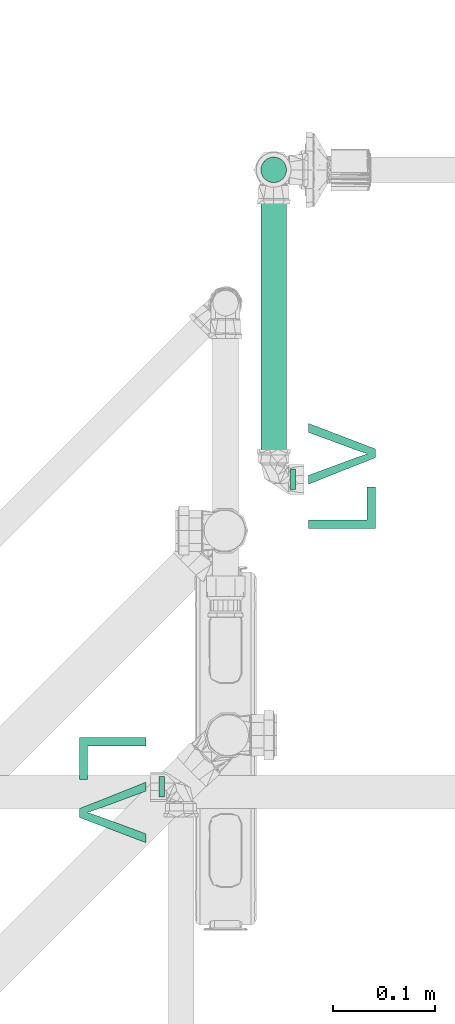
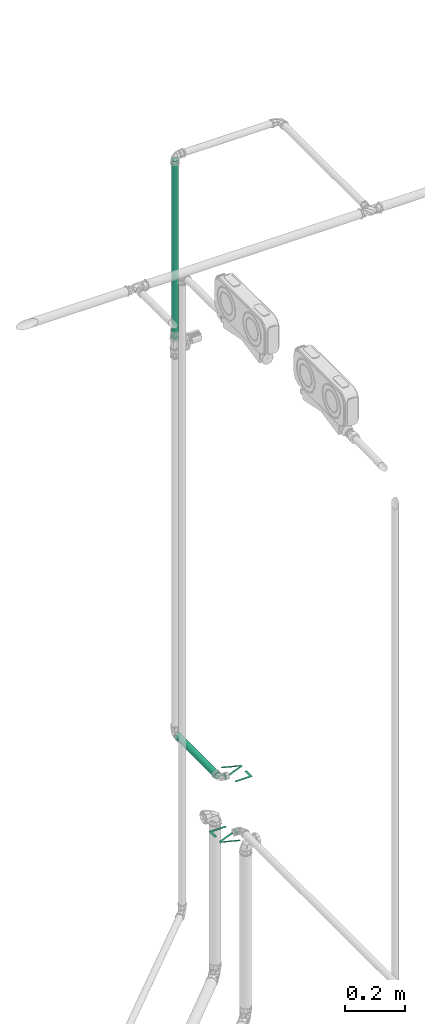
# One storey, part 104 of 589: 2 flow segments, 2 flow terminals.
"""IFC2X3 building model written with IfcOpenShell, lengths in millimetres."""

from ifc_helpers import new_model, entity, si_unit, converted_unit, derived_unit, direction, frame, frame_2d, origin, origin_2d_with_axis, place, context, subcontext, project, spatial, circle, extrude, face_set, surface_model, source, transform, mapped, material, type_object, type_shapes, element, save


model = new_model("IFC2X3")

# Units and contexts
model_context = context("Model", 3, precision=0.01, world=origin(), true_north=direction((6.123031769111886e-17, 1.0)))
body_context = subcontext(model_context, "Body", "Model", "MODEL_VIEW")
ifc_project = project(units=[si_unit("LENGTHUNIT", "METRE", prefix="MILLI"), si_unit("AREAUNIT", "SQUARE_METRE"), si_unit("VOLUMEUNIT", "CUBIC_METRE"), converted_unit("PLANEANGLEUNIT", "DEGREE", entity("IfcRatioMeasure", 0.017453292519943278), si_unit("PLANEANGLEUNIT", "RADIAN"), dimensions=[0, 0, 0, 0, 0, 0, 0]), si_unit("MASSUNIT", "GRAM", prefix="KILO"), derived_unit("MASSDENSITYUNIT", [(si_unit("MASSUNIT", "GRAM", prefix="KILO"), 1), (si_unit("LENGTHUNIT", "METRE"), -3)]), derived_unit("IONCONCENTRATIONUNIT", [(si_unit("MASSUNIT", "GRAM", prefix="KILO"), 1), (si_unit("LENGTHUNIT", "METRE"), -3)]), derived_unit("MOMENTOFINERTIAUNIT", [(si_unit("LENGTHUNIT", "METRE"), 4)]), si_unit("TIMEUNIT", "SECOND"), si_unit("FREQUENCYUNIT", "HERTZ"), si_unit("THERMODYNAMICTEMPERATUREUNIT", "DEGREE_CELSIUS"), derived_unit("THERMALTRANSMITTANCEUNIT", [(si_unit("MASSUNIT", "GRAM", prefix="KILO"), 1), (si_unit("THERMODYNAMICTEMPERATUREUNIT", "KELVIN"), -1), (si_unit("TIMEUNIT", "SECOND"), -3)]), derived_unit("THERMALCONDUCTANCEUNIT", [(si_unit("MASSUNIT", "GRAM", prefix="KILO"), 1), (si_unit("THERMODYNAMICTEMPERATUREUNIT", "KELVIN"), -1), (si_unit("TIMEUNIT", "SECOND"), -3), (si_unit("LENGTHUNIT", "METRE"), 1)]), derived_unit("VOLUMETRICFLOWRATEUNIT", [(si_unit("LENGTHUNIT", "METRE"), 3), (si_unit("TIMEUNIT", "SECOND"), -1)]), derived_unit("MASSFLOWRATEUNIT", [(si_unit("MASSUNIT", "GRAM", prefix="KILO"), 1), (si_unit("TIMEUNIT", "SECOND"), -1)]), derived_unit("ROTATIONALFREQUENCYUNIT", [(si_unit("TIMEUNIT", "SECOND"), -1)]), si_unit("ELECTRICCURRENTUNIT", "AMPERE"), si_unit("ELECTRICVOLTAGEUNIT", "VOLT"), si_unit("POWERUNIT", "WATT"), si_unit("FORCEUNIT", "NEWTON", prefix="KILO"), si_unit("ILLUMINANCEUNIT", "LUX"), si_unit("LUMINOUSFLUXUNIT", "LUMEN"), si_unit("LUMINOUSINTENSITYUNIT", "CANDELA"), derived_unit("USERDEFINED", [(si_unit("MASSUNIT", "GRAM", prefix="KILO"), -1), (si_unit("LENGTHUNIT", "METRE"), -2), (si_unit("TIMEUNIT", "SECOND"), 3), (si_unit("LUMINOUSFLUXUNIT", "LUMEN"), 1)]), derived_unit("USERDEFINED", [(si_unit("MASSUNIT", "GRAM", prefix="KILO"), 1), (si_unit("TIMEUNIT", "SECOND"), -3), (si_unit("LENGTHUNIT", "METRE"), 3), (si_unit("ELECTRICCURRENTUNIT", "AMPERE"), -2)]), derived_unit("SOUNDPOWERUNIT", [(si_unit("MASSUNIT", "GRAM", prefix="KILO"), 1), (si_unit("TIMEUNIT", "SECOND"), -3), (si_unit("LENGTHUNIT", "METRE"), 2)]), derived_unit("SOUNDPRESSUREUNIT", [(si_unit("MASSUNIT", "GRAM", prefix="KILO"), 1), (si_unit("LENGTHUNIT", "METRE"), -1), (si_unit("TIMEUNIT", "SECOND"), -2)]), derived_unit("LINEARVELOCITYUNIT", [(si_unit("LENGTHUNIT", "METRE"), 1), (si_unit("TIMEUNIT", "SECOND"), -1)]), si_unit("PRESSUREUNIT", "PASCAL"), derived_unit("USERDEFINED", [(si_unit("MASSUNIT", "GRAM", prefix="KILO"), 1), (si_unit("LENGTHUNIT", "METRE"), -2), (si_unit("TIMEUNIT", "SECOND"), -2)]), derived_unit("LINEARFORCEUNIT", [(si_unit("MASSUNIT", "GRAM", prefix="KILO"), 1), (si_unit("TIMEUNIT", "SECOND"), -2)]), derived_unit("PLANARFORCEUNIT", [(si_unit("MASSUNIT", "GRAM", prefix="KILO"), 1), (si_unit("LENGTHUNIT", "METRE"), -1), (si_unit("TIMEUNIT", "SECOND"), -2)]), derived_unit("SPECIFICHEATCAPACITYUNIT", [(si_unit("THERMODYNAMICTEMPERATUREUNIT", "KELVIN"), -1), (si_unit("LENGTHUNIT", "METRE"), 2), (si_unit("TIMEUNIT", "SECOND"), -2)]), derived_unit("HEATINGVALUEUNIT", [(si_unit("LENGTHUNIT", "METRE"), 2), (si_unit("TIMEUNIT", "SECOND"), -2)]), derived_unit("VAPORPERMEABILITYUNIT", [(si_unit("LENGTHUNIT", "METRE"), -1), (si_unit("TIMEUNIT", "SECOND"), 1)]), derived_unit("DYNAMICVISCOSITYUNIT", [(si_unit("MASSUNIT", "GRAM", prefix="KILO"), 1), (si_unit("TIMEUNIT", "SECOND"), -1), (si_unit("LENGTHUNIT", "METRE"), -1)]), derived_unit("THERMALEXPANSIONCOEFFICIENTUNIT", [(si_unit("THERMODYNAMICTEMPERATUREUNIT", "KELVIN"), -1)]), derived_unit("MODULUSOFELASTICITYUNIT", [(si_unit("MASSUNIT", "GRAM", prefix="KILO"), 1), (si_unit("LENGTHUNIT", "METRE"), -1), (si_unit("TIMEUNIT", "SECOND"), -2)]), derived_unit("ISOTHERMALMOISTURECAPACITYUNIT", [(si_unit("LENGTHUNIT", "METRE"), 3), (si_unit("MASSUNIT", "GRAM", prefix="KILO"), -1)]), derived_unit("MOISTUREDIFFUSIVITYUNIT", [(si_unit("TIMEUNIT", "SECOND"), -1), (si_unit("LENGTHUNIT", "METRE"), 2)])], contexts=[model_context])

# Site, building, storey
site_placement = place(None, origin())
site = spatial("IfcSite", under=ifc_project, at=site_placement, Name="Default", CompositionType="ELEMENT")
building_placement = place(site_placement, origin())
building = spatial("IfcBuilding", under=site, at=building_placement, CompositionType="ELEMENT")
storey_placement = place(building_placement, frame((0.0, 0.0, 100.0)))
storey = spatial("IfcBuildingStorey", under=building, at=storey_placement, Name="TÉRREO", CompositionType="ELEMENT", Elevation=100.0)

# Flow segments
pipe_segment_type = type_object("IfcPipeSegmentType", Name="Tipos de tubos:PVC Marrom Soldável", PredefinedType="NOTDEFINED")
flow_segment_1_placement = place(storey_placement, origin())
element("IfcFlowSegment", 1, at=flow_segment_1_placement, inside=storey, type_object=pipe_segment_type, Name="Tipos de tubos:PVC Marrom Soldável", ObjectType="Tipos de tubos:PVC Marrom Soldável", context=body_context, shape_type="SweptSolid", body=[
    extrude(circle(Radius=12.5, at=frame_2d((6.767919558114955e-14, -1.353583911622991e-13), x_axis=(1.0, 0.0))), frame((431.8423921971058, -5881.231283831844, 600.0), z_axis=(0.0, 1.0, 0.0), x_axis=(1.0, 0.0, 0.0)), (0.0, 0.0, 1.0), 270.4353148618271),
])
flow_segment_2_placement = place(storey_placement, origin())
element("IfcFlowSegment", 2, at=flow_segment_2_placement, inside=storey, type_object=pipe_segment_type, Name="Tipos de tubos:PVC Marrom Soldável", ObjectType="Tipos de tubos:PVC Marrom Soldável", context=body_context, shape_type="SweptSolid", body=[
    extrude(circle(Radius=12.5, at=origin_2d_with_axis()), frame((431.84239219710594, -5595.395968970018, 2220.0), z_axis=(0.0, 0.0, 1.0), x_axis=(-1.0, 0.0, 0.0)), (0.0, 0.0, 1.0), 734.6000000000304),
])

# Flow terminals
ifc_material = material(Name="<Unnamed>")
distribution_element_type = type_object("IfcDistributionElementType", Name="Hidráulica_Ponto de Utilização_Uso Provável_Rodrigo MEP:Lavatório LV (Peso 0,3) 60cm do Piso", material=ifc_material)
shared_shape = source(origin(), body_context, "Body", "SurfaceModel", [
    surface_model("IfcFaceBasedSurfaceModel", [(0.0, 0.0, 11.595272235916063), (40.81037599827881, 0.0, 11.595272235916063), (40.81037599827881, 8.162075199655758, 11.595272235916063), (8.162075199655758, 8.162075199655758, 11.595272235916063), (8.162075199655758, 65.2966015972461, 11.595272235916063), (0.0, 65.2966015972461, 11.595272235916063), (69.281989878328, 0.0, 11.595272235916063), (77.71507148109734, 0.0, 11.595272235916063), (102.59983590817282, 65.2966015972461, 11.595272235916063), (93.86386479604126, 65.2966015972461, 11.595272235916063), (76.4238056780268, 18.253078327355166, 11.595272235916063), (72.94854709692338, 7.651945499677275, 11.595272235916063), (69.42546385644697, 18.253078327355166, 11.595272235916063), (52.03322939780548, 65.2966015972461, 11.595272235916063), (43.29725828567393, 65.2966015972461, 11.595272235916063), (37.95219179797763, 78.06704158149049, 11.595272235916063), (38.292933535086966, 78.06704158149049, 14.18346268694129), (39.291937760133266, 78.06704158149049, 16.595272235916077), (40.88112398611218, 78.06704158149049, 18.666340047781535), (42.95219179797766, 78.06704158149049, 20.255526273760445), (45.36400134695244, 78.06704158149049, 21.254530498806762), (47.952191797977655, 78.06704158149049, 21.59527223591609), (50.54038224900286, 78.06704158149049, 21.254530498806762), (52.95219179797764, 78.06704158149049, 20.255526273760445), (55.023259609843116, 78.06704158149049, 18.666340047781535), (56.61244583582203, 78.06704158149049, 16.595272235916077), (57.61145006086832, 78.06704158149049, 14.18346268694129), (57.95219179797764, 78.06704158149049, 11.595272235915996), (57.6114500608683, 78.06704158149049, 9.007081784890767), (56.612445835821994, 78.06704158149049, 6.595272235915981), (55.02325960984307, 78.06704158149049, 4.524204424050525), (52.95219179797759, 78.06704158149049, 2.9350181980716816), (50.540382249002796, 78.06704158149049, 1.936013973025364), (47.95219179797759, 78.06704158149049, 1.5952722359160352), (45.36400134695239, 78.06704158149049, 1.936013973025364), (42.952191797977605, 78.06704158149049, 2.9350181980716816), (40.88112398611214, 78.06704158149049, 4.524204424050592), (39.29193776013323, 78.06704158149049, 6.595272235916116), (38.292933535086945, 78.06704158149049, 9.007081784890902), (37.95219179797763, 83.06704158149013, 11.595272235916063), (38.292933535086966, 83.06704158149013, 14.18346268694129), (39.291937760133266, 83.06704158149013, 16.595272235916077), (40.88112398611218, 83.06704158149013, 18.666340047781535), (42.95219179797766, 83.06704158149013, 20.255526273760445), (45.36400134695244, 83.06704158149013, 21.254530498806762), (47.952191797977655, 83.06704158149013, 21.59527223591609), (50.54038224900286, 83.06704158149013, 21.254530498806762), (52.95219179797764, 83.06704158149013, 20.255526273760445), (55.023259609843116, 83.06704158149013, 18.666340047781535), (56.61244583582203, 83.06704158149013, 16.595272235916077), (57.61145006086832, 83.06704158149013, 14.18346268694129), (57.95219179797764, 83.06704158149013, 11.595272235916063), (57.6114500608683, 83.06704158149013, 9.007081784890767), (56.612445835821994, 83.06704158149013, 6.595272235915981), (55.02325960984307, 83.06704158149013, 4.524204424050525), (52.95219179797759, 83.06704158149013, 2.9350181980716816), (50.540382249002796, 83.06704158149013, 1.936013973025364), (47.95219179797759, 83.06704158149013, 1.5952722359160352), (45.36400134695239, 83.06704158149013, 1.936013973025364), (42.952191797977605, 83.06704158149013, 2.9350181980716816), (40.88112398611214, 83.06704158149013, 4.524204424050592), (39.29193776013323, 83.06704158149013, 6.595272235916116), (38.292933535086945, 83.06704158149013, 9.007081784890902)], [face_set([[[0, 1, 2, 3, 4, 5]], [[6, 7, 8, 9, 10, 11, 12, 13, 14]]]), face_set([[[15, 16, 17, 18, 19, 20, 21, 22, 23, 24, 25, 26, 27, 28, 29, 30, 31, 32, 33, 34, 35, 36, 37, 38]], [[39, 40, 41, 42, 43, 44, 45, 46, 47, 48, 49, 50, 51, 52, 53, 54, 55, 56, 57, 58, 59, 60, 61, 62]], [[39, 62, 38, 15]], [[62, 61, 37, 38]], [[60, 59, 35, 36]], [[61, 60, 36, 37]], [[59, 58, 34, 35]], [[33, 34, 58, 57]], [[57, 56, 32, 33]], [[56, 55, 31, 32]], [[54, 53, 29, 30]], [[55, 54, 30, 31]], [[53, 52, 28, 29]], [[27, 28, 52, 51]], [[51, 50, 26, 27]], [[50, 49, 25, 26]], [[48, 47, 23, 24]], [[49, 48, 24, 25]], [[47, 46, 22, 23]], [[21, 22, 46, 45]], [[45, 44, 20, 21]], [[44, 43, 19, 20]], [[42, 41, 17, 18]], [[43, 42, 18, 19]], [[41, 40, 16, 17]], [[15, 16, 40, 39]]])]),
])
type_shapes(distribution_element_type, [shared_shape])
for number, where, z_axis, x_axis in (
    (3, (242.07535061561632, -6149.579092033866, 588.4056629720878), (0.0, 0.0, 1.0), (0.0, -1.0, 0.0)),
    (4, (531.209433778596, -5945.483475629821, 588.4047277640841), (0.0, 0.0, 1.0), (0.0, 1.0, 0.0)),
):
    element("IfcFlowTerminal", number, at=place(storey_placement, frame(where, z_axis=z_axis, x_axis=x_axis)), inside=storey, type_object=distribution_element_type, material=ifc_material, Name="Hidráulica_Ponto de Utilização_Uso Provável_Rodrigo MEP:Lavatório LV (Peso 0,3) 60cm do Piso", ObjectType="Hidráulica_Ponto de Utilização_Uso Provável_Rodrigo MEP:Lavatório LV (Peso 0,3) 60cm do Piso", context=body_context, shape_type="MappedRepresentation", body=[
        mapped(shared_shape, transform((0.0, 0.0, 0.0), scale=1.0)),
    ])

save(model, "model.ifc")
